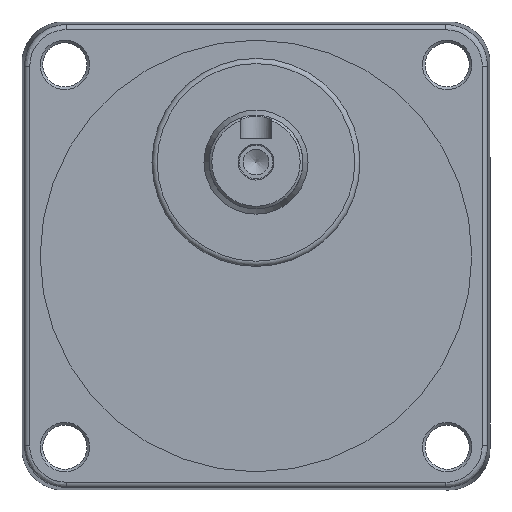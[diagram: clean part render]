
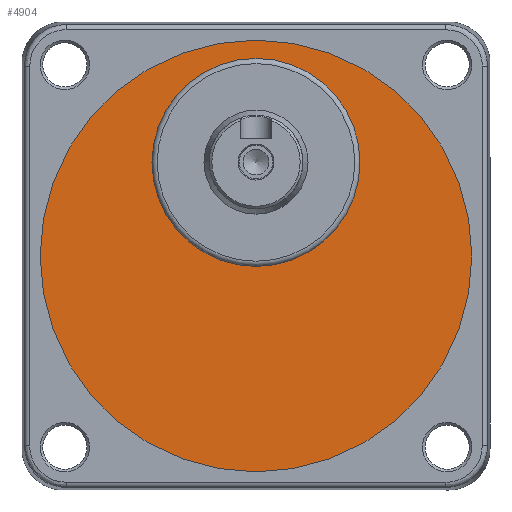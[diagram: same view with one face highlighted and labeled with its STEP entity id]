
A CAD part, front view. The second image highlights one B-rep face of the part: STEP entity #4904.
In plain terms, the highlighted planar face has unit normal (0, -1, 0).
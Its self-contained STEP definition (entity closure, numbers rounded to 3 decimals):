
#4243=CARTESIAN_POINT('',(20.0,-55.5,18.));
#4244=VERTEX_POINT('',#4243);
#4245=CARTESIAN_POINT('',(0.,-55.5,18.0));
#4246=DIRECTION('',(0.0,1.0,0.0));
#4247=DIRECTION('',(-1.0,0.0,0.0));
#4248=AXIS2_PLACEMENT_3D('',#4245,#4246,#4247);
#4249=CIRCLE('',#4248,20.0);
#4250=EDGE_CURVE('',#4244,#4244,#4249,.T.);
#4878=CARTESIAN_POINT('',(41.5,-55.5,0.));
#4879=VERTEX_POINT('',#4878);
#4880=CARTESIAN_POINT('',(0.0,-55.5,0.0));
#4881=DIRECTION('',(0.0,-1.0,0.0));
#4882=DIRECTION('',(-1.0,0.0,0.0));
#4883=AXIS2_PLACEMENT_3D('',#4880,#4881,#4882);
#4884=CIRCLE('',#4883,41.5);
#4885=EDGE_CURVE('',#4879,#4879,#4884,.T.);
#4893=CARTESIAN_POINT('',(0.0,-55.5,0.0));
#4894=DIRECTION('',(0.0,1.0,0.0));
#4895=DIRECTION('',(0.0,0.0,1.0));
#4896=AXIS2_PLACEMENT_3D('',#4893,#4894,#4895);
#4897=PLANE('',#4896);
#4898=ORIENTED_EDGE('',*,*,#4885,.T.);
#4899=EDGE_LOOP('',(#4898));
#4900=FACE_OUTER_BOUND('',#4899,.T.);
#4901=ORIENTED_EDGE('',*,*,#4250,.T.);
#4902=EDGE_LOOP('',(#4901));
#4903=FACE_BOUND('',#4902,.T.);
#4904=ADVANCED_FACE('',(#4900,#4903),#4897,.F.);
